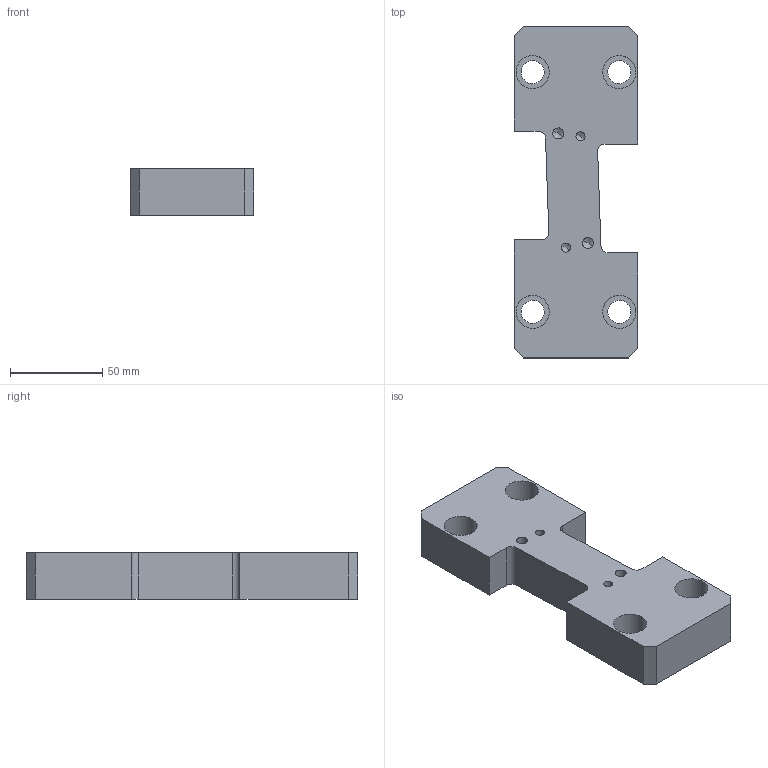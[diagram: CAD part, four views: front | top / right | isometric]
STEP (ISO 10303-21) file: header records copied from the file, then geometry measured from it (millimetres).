
FILE_DESCRIPTION(('CATIA V5 STEP Exchange','CAx-IF Rec.Pracs.--- Model Styling and Organization---1.5--- 2016-08-15','CAx-IF Rec.Pracs.---Supplemental Geometry---1.0---2011-11-01','CAx-IF Rec.Pracs.--- Composite Materials ---1.1---2010-07-15','CAx-IF Rec.Pracs.---External References---2.1---2005-01-19'),'2;1');
FILE_NAME('E:\WAT\Sprezarka\121_00_00_Tlocznik1\Tlocznik1_KPL\Tlocznik1_stp\121_02_31_Plyta.stp','2023-08-01T08:49:44+00:00',('none'),('none'),'CATIA Version 5-6 Release 2022 SP3','CATIA V5 STEP AP214 v2','none');
FILE_SCHEMA(('AUTOMOTIVE_DESIGN { 1 0 10303 214 1 1 1 1 }'));
Length unit declared in the file: millimetre
Products named in the file (1): 121_02_31_Plyta
Bounding box: 67 x 180 x 25 mm (x, y, z)
Volume: 221906.6 mm3; surface area: 38390.6 mm2
Topology: 1 solids, 1 shells, 58 faces, 148 edges, 92 vertices
Faces by surface type: cylinder 28, plane 22, cone 8
Entity records: 1660 total; most frequent: ORIENTED_EDGE 280, CARTESIAN_POINT 270, DIRECTION 214, EDGE_CURVE 140, AXIS2_PLACEMENT_3D 94, VERTEX_POINT 92, VECTOR 84, LINE 84
